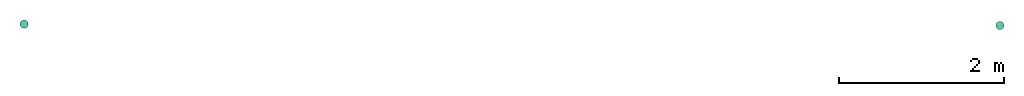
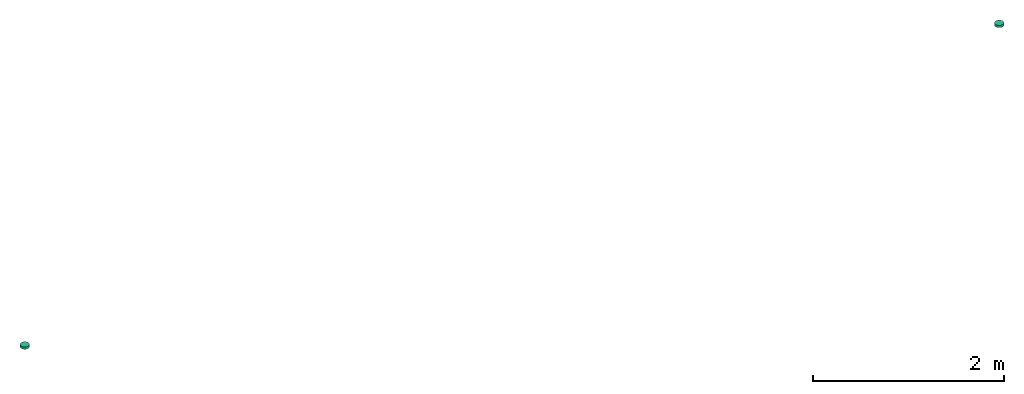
# One storey: 2 distribution control elements.
"""IFC2X3 building model written with IfcOpenShell, lengths in millimetres."""

from ifc_helpers import new_model, entity, si_unit, converted_unit, derived_unit, direction, frame, origin_with_axes, place, context, subcontext, project, spatial, open_shell, surface_model, source, transform, mapped, type_object, element, save


model = new_model("IFC2X3")

# Units and contexts
model_context = context("Model", 3, precision=0.01, world=frame((0.0, 4.29681676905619e-09, 0.0)), true_north=direction((4.01073788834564e-13, 1.0)))
plan_context = context("Plan", 3, precision=0.01, world=frame((0.0, 4.29681676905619e-09, 0.0)), true_north=direction((4.01073788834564e-13, 1.0)))
body_context = subcontext(model_context, "Body", "Model", "MODEL_VIEW")
ifc_project = project(units=[converted_unit("PLANEANGLEUNIT", "DEGREE", entity("IfcPositiveLengthMeasure", 0.0174532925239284), si_unit("PLANEANGLEUNIT", "RADIAN"), dimensions=[0, 0, 0, 0, 0, 0, 0]), si_unit("AREAUNIT", "SQUARE_METRE"), si_unit("LENGTHUNIT", "METRE", prefix="MILLI"), si_unit("MASSUNIT", "GRAM", prefix="KILO"), si_unit("POWERUNIT", "WATT"), si_unit("PRESSUREUNIT", "PASCAL", prefix="KILO"), si_unit("FORCEUNIT", "NEWTON", prefix="KILO"), si_unit("ELECTRICVOLTAGEUNIT", "VOLT"), si_unit("ELECTRICCURRENTUNIT", "AMPERE"), si_unit("THERMODYNAMICTEMPERATUREUNIT", "DEGREE_CELSIUS"), si_unit("TIMEUNIT", "SECOND"), si_unit("VOLUMEUNIT", "CUBIC_METRE"), derived_unit("LINEARVELOCITYUNIT", [(si_unit("LENGTHUNIT", "METRE"), 1), (si_unit("TIMEUNIT", "SECOND"), -1)]), derived_unit("VOLUMETRICFLOWRATEUNIT", [(si_unit("VOLUMEUNIT", "CUBIC_METRE"), 1), (si_unit("TIMEUNIT", "SECOND"), -1)]), derived_unit("THERMALTRANSMITTANCEUNIT", [(si_unit("POWERUNIT", "WATT"), 1), (si_unit("THERMODYNAMICTEMPERATUREUNIT", "KELVIN"), -1), (si_unit("AREAUNIT", "SQUARE_METRE"), -1)]), derived_unit("SOUNDPRESSUREUNIT", [(si_unit("PRESSUREUNIT", "PASCAL"), 1)])], contexts=[model_context, plan_context])

# Site, building, storey
site_placement = place(None, frame((0.0, -4.29681676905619e-09, 0.0), z_axis=(0.0, 0.0, 1.0), x_axis=(1.0, 0.0, 0.0)))
site = spatial("IfcSite", under=ifc_project, at=site_placement, Name="ENGM", CompositionType="ELEMENT")
building_placement = place(site_placement, frame((0.0, 4.29681676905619e-09, 0.0), z_axis=(0.0, 0.0, 1.0), x_axis=(1.0, 0.0, 0.0)))
building = spatial("IfcBuilding", under=site, at=building_placement, Name="TI", CompositionType="ELEMENT")
storey_placement = place(building_placement, frame((0.0, 0.0, 207370.0), z_axis=(0.0, 0.0, 1.0), x_axis=(1.0, 0.0, 0.0)))
storey = spatial("IfcBuildingStorey", under=building, at=storey_placement, Name="Nivå E", CompositionType="ELEMENT", Elevation=207370.0)

# Distribution control elements
alarm_type = type_object("IfcAlarmType", Name="Standard", PredefinedType="NOTDEFINED")
shared_shape = source(origin_with_axes(), body_context, "Body", "SurfaceModel", [
    surface_model("IfcShellBasedSurfaceModel", [(-25.0, 43.30127, -28.9), (-35.35534, 35.35534, -28.9), (-18.0, 31.17691, -28.9), (-25.45584, 25.45584, -28.9), (-9.31749, 34.77333, -28.9), (-12.94095, 48.29629, -28.9), (0.0, 36.0, -28.9), (0.0, 50.0, -28.9), (-34.77333, 9.31749, -28.9), (-43.30127, 25.0, -28.9), (-48.29629, 12.94095, -28.9), (-36.0, 0.0, -28.9), (-50.0, 0.0, -28.9), (-31.17691, 18.0, -28.9), (9.31749, 34.77333, -28.9), (12.94095, 48.29629, -28.9), (18.0, 31.17691, -28.9), (35.35534, 35.35534, -28.9), (25.0, 43.30127, -28.9), (25.45584, 25.45584, -28.9), (31.17691, 18.0, -28.9), (34.77333, 9.31749, -28.9), (43.30127, 25.0, -28.9), (48.29629, 12.94095, -28.9), (36.0, 0.0, -28.9), (50.0, 0.0, -28.9), (-34.77333, -9.31749, -28.9), (-48.29629, -12.94095, -28.9), (-31.17691, -18.0, -28.9), (-43.30127, -25.0, -28.9), (-25.45584, -25.45584, -28.9), (-35.35534, -35.35534, -28.9), (-18.0, -31.17691, -28.9), (-25.0, -43.30127, -28.9), (-9.31749, -34.77333, -28.9), (-12.94095, -48.29629, -28.9), (0.0, -36.0, -28.9), (0.0, -50.0, -28.9), (43.30127, -25.0, -28.9), (31.17691, -18.0, -28.9), (35.35534, -35.35534, -28.9), (34.77333, -9.31749, -28.9), (48.29629, -12.94095, -28.9), (25.45584, -25.45584, -28.9), (9.31749, -34.77333, -28.9), (12.94095, -48.29629, -28.9), (18.0, -31.17691, -28.9), (25.0, -43.30127, -28.9), (-25.0, -43.30127, -29.1), (-35.35534, -35.35534, -29.1), (-18.0, -31.17691, -29.1), (-25.45584, -25.45584, -29.1), (-9.31749, -34.77333, -29.1), (-12.94095, -48.29629, -29.1), (0.0, -36.0, -29.1), (0.0, -50.0, -29.1), (-34.77333, -9.31749, -29.1), (-43.30127, -25.0, -29.1), (-48.29629, -12.94095, -29.1), (-36.0, 0.0, -29.1), (-50.0, 0.0, -29.1), (-31.17691, -18.0, -29.1), (9.31749, -34.77333, -29.1), (12.94095, -48.29629, -29.1), (18.0, -31.17691, -29.1), (35.35534, -35.35534, -29.1), (25.0, -43.30127, -29.1), (25.45584, -25.45584, -29.1), (31.17691, -18.0, -29.1), (34.77333, -9.31749, -29.1), (43.30127, -25.0, -29.1), (48.29629, -12.94095, -29.1), (36.0, 0.0, -29.1), (50.0, 0.0, -29.1), (-34.77333, 9.31749, -29.1), (-48.29629, 12.94095, -29.1), (-31.17691, 18.0, -29.1), (-43.30127, 25.0, -29.1), (-25.45584, 25.45584, -29.1), (-35.35534, 35.35534, -29.1), (-18.0, 31.17691, -29.1), (-25.0, 43.30127, -29.1), (-9.31749, 34.77333, -29.1), (-12.94095, 48.29629, -29.1), (0.0, 36.0, -29.1), (0.0, 50.0, -29.1), (43.30127, 25.0, -29.1), (31.17691, 18.0, -29.1), (35.35534, 35.35534, -29.1), (34.77333, 9.31749, -29.1), (48.29629, 12.94095, -29.1), (25.45584, 25.45584, -29.1), (9.31749, 34.77333, -29.1), (12.94095, 48.29629, -29.1), (18.0, 31.17691, -29.1), (25.0, 43.30127, -29.1), (6.47048, -24.14815, -44.9), (12.5, -21.65064, -44.9), (17.67767, -17.67767, -44.9), (24.14815, -6.47048, -44.9), (-24.14815, -6.47048, -44.9), (21.65064, -12.5, -44.9), (-21.65064, 12.5, -44.9), (0.0, -25.0, -44.9), (-12.5, -21.65064, -44.9), (-6.47048, -24.14815, -44.9), (-17.67767, -17.67767, -44.9), (-21.65064, -12.5, -44.9), (25.0, 0.0, -44.9), (24.14815, 6.47048, -44.9), (21.65064, 12.5, -44.9), (17.67767, 17.67767, -44.9), (12.5, 21.65064, -44.9), (6.47048, 24.14815, -44.9), (0.0, 25.0, -44.9), (-25.0, 0.0, -44.9), (-24.14815, 6.47048, -44.9), (-12.5, 21.65064, -44.9), (-17.67767, 17.67767, -44.9), (-6.47048, 24.14815, -44.9), (0.0, 25.0, -45.1), (6.47048, 24.14815, -45.1), (12.5, 21.65064, -45.1), (-21.65064, 12.5, -45.1), (17.67767, 17.67767, -45.1), (21.65064, 12.5, -45.1), (24.14815, 6.47048, -45.1), (-12.5, 21.65064, -45.1), (-17.67767, 17.67767, -45.1), (-6.47048, 24.14815, -45.1), (-25.0, 0.0, -45.1), (-24.14815, 6.47048, -45.1), (-24.14815, -6.47048, -45.1), (24.14815, -6.47048, -45.1), (6.47048, -24.14815, -45.1), (21.65064, -12.5, -45.1), (17.67767, -17.67767, -45.1), (12.5, -21.65064, -45.1), (-12.5, -21.65064, -45.1), (-17.67767, -17.67767, -45.1), (-21.65064, -12.5, -45.1), (0.0, -25.0, -45.1), (-6.47048, -24.14815, -45.1), (25.0, 0.0, -45.1), (-1.46739, 34.60682, -29.0), (0.0, 34.8, -29.0), (0.0, 35.0, -29.0), (-34.60682, 1.46739, -29.0), (-35.0, 0.0, -29.0), (-34.8, 0.0, -29.0), (-17.5, 30.31089, -29.0), (-18.5742, 29.23669, -29.0), (-17.4, 30.13768, -29.0), (-24.60732, -24.60732, -29.0), (-18.5742, -29.23669, -29.0), (-29.23669, -18.5742, -29.0), (34.8, 0.0, -29.0), (34.60682, -1.46739, -29.0), (35.0, 0.0, -29.0), (17.4, 30.13768, -29.0), (17.5, 30.31089, -29.0), (16.03261, 30.70407, -29.0), (30.13768, 17.4, -29.0), (30.31089, 17.5, -29.0), (29.23669, 18.5742, -29.0), (34.60682, 1.46739, -29.0), (33.61422, -9.0069, -29.0), (30.70407, -16.03261, -29.0), (-33.61422, -9.0069, -29.0), (-30.70407, -16.03261, -29.0), (-34.60682, -1.46739, -29.0), (-30.13768, -17.4, -29.0), (-30.31089, -17.5, -29.0), (-17.5, -30.31089, -29.0), (-17.4, -30.13768, -29.0), (-1.46739, -34.60682, -29.0), (0.0, -35.0, -29.0), (0.0, -34.8, -29.0), (-16.03261, -30.70407, -29.0), (-9.0069, -33.61422, -29.0), (1.46739, -34.60682, -29.0), (30.13768, -17.4, -29.0), (29.23669, -18.5742, -29.0), (30.31089, -17.5, -29.0), (24.60732, -24.60732, -29.0), (18.5742, -29.23669, -29.0), (9.0069, -33.61422, -29.0), (16.03261, -30.70407, -29.0), (-30.13768, 17.4, -29.0), (-30.31089, 17.5, -29.0), (-30.70407, 16.03261, -29.0), (17.4, -30.13768, -29.0), (17.5, -30.31089, -29.0), (-33.61422, 9.0069, -29.0), (-29.23669, 18.5742, -29.0), (-24.60732, 24.60732, -29.0), (-16.03261, 30.70407, -29.0), (-9.0069, 33.61422, -29.0), (1.46739, 34.60682, -29.0), (9.0069, 33.61422, -29.0), (18.5742, 29.23669, -29.0), (24.60732, 24.60732, -29.0), (30.70407, 16.03261, -29.0), (33.61422, 9.0069, -29.0), (23.00389, 18.55381, -38.25), (14.9, 25.80756, -38.25), (21.07178, 21.07178, -38.25), (29.66376, 1.03484, -38.25), (30.0, 0.0, -38.25), (29.8, 0.0, -38.25), (24.27051, 17.63356, -38.25), (24.68215, 16.36666, -38.25), (10.52665, 27.61906, -38.25), (28.78459, 7.71281, -38.25), (-10.52665, 27.61906, -38.25), (-23.00389, 18.55381, -38.25), (-14.9, 25.80756, -38.25), (8.32335, 28.5317, -38.25), (0.0, 29.8, -38.25), (7.71281, 28.78459, -38.25), (-8.32335, 28.5317, -38.25), (-24.68215, 16.36666, -38.25), (-28.78459, 7.71281, -38.25), (-25.80756, 14.9, -38.25), (-9.27051, 28.5317, -38.25), (-29.66376, 1.03484, -38.25), (-29.8, 0.0, -38.25), (-30.0, 0.0, -38.25), (-28.78459, -7.71281, -38.25), (-24.68215, -16.36666, -38.25), (-25.80756, -14.9, -38.25), (29.66376, -1.03484, -38.25), (-7.71281, 28.78459, -38.25), (25.80756, 14.9, -38.25), (14.9, -25.80756, -38.25), (10.52665, -27.61906, -38.25), (23.00389, -18.55381, -38.25), (28.78459, -7.71281, -38.25), (24.68215, -16.36666, -38.25), (0.0, -29.8, -38.25), (-7.71281, -28.78459, -38.25), (-8.32335, -28.5317, -38.25), (8.32335, -28.5317, -38.25), (9.27051, 28.5317, -38.25), (-29.66376, -1.03484, -38.25), (21.07178, -21.07178, -38.25), (-23.00389, -18.55381, -38.25), (-24.27051, -17.63356, -38.25), (-9.27051, -28.5317, -38.25), (-10.52665, -27.61906, -38.25), (-21.07178, -21.07178, -38.25), (-14.9, -25.80756, -38.25), (9.27051, -28.5317, -38.25), (7.71281, -28.78459, -38.25), (24.27051, -17.63356, -38.25), (25.80756, -14.9, -38.25), (-21.07178, 21.07178, -38.25), (-24.27051, 17.63356, -38.25), (33.28589, -6.39713, -29.0), (27.13526, -8.81678, -38.25), (-16.77051, -23.08263, -38.25), (-23.90544, -23.90544, -29.0), (-27.13526, -8.81678, -38.25), (-33.28589, -6.39713, -29.0), (16.77051, -23.08263, -38.25), (8.75, -32.65544, -29.0), (0.0, -28.5317, -38.25), (23.90544, -23.90544, -29.0), (-8.75, -32.65544, -29.0), (-33.28589, 6.39713, -29.0), (-27.13526, 8.81678, -38.25), (16.77051, 23.08263, -38.25), (23.90544, 23.90544, -29.0), (27.13526, 8.81678, -38.25), (33.28589, 6.39713, -29.0), (-16.77051, 23.08263, -38.25), (-8.75, 32.65544, -29.0), (0.0, 28.5317, -38.25), (-23.90544, 23.90544, -29.0), (8.75, 32.65544, -29.0), (12.4, 21.47743, -45.0), (17.53625, 17.53625, -45.0), (19.07577, 15.5299, -45.0), (20.22543, 14.69463, -45.0), (20.59905, 13.54472, -45.0), (24.66376, 1.03484, -45.0), (25.0, 0.0, -45.0), (24.8, 0.0, -45.0), (8.88673, 22.93267, -45.0), (23.95496, 6.41871, -45.0), (-8.88673, 22.93267, -45.0), (-19.07577, 15.5299, -45.0), (-12.4, 21.47743, -45.0), (6.84976, 23.77641, -45.0), (0.0, 24.8, -45.0), (6.41871, 23.95496, -45.0), (-7.72542, 23.77641, -45.0), (-6.84976, 23.77641, -45.0), (-21.47743, 12.4, -45.0), (-20.59905, 13.54472, -45.0), (-23.95496, 6.41871, -45.0), (-25.0, 0.0, -45.0), (-24.66376, 1.03484, -45.0), (-24.8, 0.0, -45.0), (-23.95496, -6.41871, -45.0), (-20.59905, -13.54472, -45.0), (-21.47743, -12.4, -45.0), (-6.41871, 23.95496, -45.0), (24.66376, -1.03484, -45.0), (21.47743, 12.4, -45.0), (12.4, -21.47743, -45.0), (8.88673, -22.93267, -45.0), (19.07577, -15.5299, -45.0), (23.95496, -6.41871, -45.0), (20.59905, -13.54472, -45.0), (0.0, -24.8, -45.0), (-6.41871, -23.95496, -45.0), (-6.84976, -23.77641, -45.0), (7.72542, -23.77641, -45.0), (6.84976, -23.77641, -45.0), (7.72542, 23.77641, -45.0), (-24.66376, -1.03484, -45.0), (17.53625, -17.53625, -45.0), (-20.22543, -14.69463, -45.0), (-19.07577, -15.5299, -45.0), (-8.88673, -22.93267, -45.0), (-7.72542, -23.77641, -45.0), (-17.53625, -17.53625, -45.0), (-12.4, -21.47743, -45.0), (6.41871, -23.95496, -45.0), (20.22543, -14.69463, -45.0), (21.47743, -12.4, -45.0), (-17.53625, 17.53625, -45.0), (-20.22543, 14.69463, -45.0), (-22.61271, -7.34732, -45.0), (-13.97542, -19.23552, -45.0), (0.0, -23.77641, -45.0), (21.83768, -9.73262, -45.0), (13.97542, -19.23552, -45.0), (23.41884, -4.86631, -45.0), (22.61271, 7.34732, -45.0), (13.97542, 19.23552, -45.0), (0.0, 23.77641, -45.0), (-21.83768, 9.73262, -45.0), (-13.97542, 19.23552, -45.0), (-23.41884, 4.86631, -45.0), (12.94095, -48.29629, 0.0), (25.0, -43.30127, 0.0), (35.35534, -35.35534, 0.0), (48.29629, -12.94095, 0.0), (-48.29629, -12.94095, 0.0), (43.30127, -25.0, 0.0), (-43.30127, 25.0, 0.0), (0.0, -50.0, 0.0), (-25.0, -43.30127, 0.0), (-12.94095, -48.29629, 0.0), (-35.35534, -35.35534, 0.0), (-43.30127, -25.0, 0.0), (50.0, 0.0, 0.0), (48.29629, 12.94095, 0.0), (43.30127, 25.0, 0.0), (35.35534, 35.35534, 0.0), (25.0, 43.30127, 0.0), (12.94095, 48.29629, 0.0), (0.0, 50.0, 0.0), (-50.0, 0.0, 0.0), (-48.29629, 12.94095, 0.0), (-25.0, 43.30127, 0.0), (-35.35534, 35.35534, 0.0), (-12.94095, 48.29629, 0.0), (0.0, 50.0, -29.0), (12.94095, 48.29629, -29.0), (25.0, 43.30127, -29.0), (-43.30127, 25.0, -29.0), (35.35534, 35.35534, -29.0), (43.30127, 25.0, -29.0), (48.29629, 12.94095, -29.0), (-25.0, 43.30127, -29.0), (-35.35534, 35.35534, -29.0), (-12.94095, 48.29629, -29.0), (-50.0, 0.0, -29.0), (-48.29629, 12.94095, -29.0), (-48.29629, -12.94095, -29.0), (48.29629, -12.94095, -29.0), (12.94095, -48.29629, -29.0), (43.30127, -25.0, -29.0), (35.35534, -35.35534, -29.0), (25.0, -43.30127, -29.0), (-25.0, -43.30127, -29.0), (-35.35534, -35.35534, -29.0), (-43.30127, -25.0, -29.0), (0.0, -50.0, -29.0), (-12.94095, -48.29629, -29.0), (50.0, 0.0, -29.0)], [open_shell([[[0, 1, 2]], [[2, 1, 3]], [[0, 2, 4]], [[5, 4, 6]], [[4, 5, 0]], [[5, 6, 7]], [[8, 9, 10]], [[11, 10, 12]], [[8, 10, 11]], [[13, 3, 9]], [[8, 13, 9]], [[9, 3, 1]], [[7, 14, 15]], [[14, 7, 6]], [[15, 14, 16]], [[17, 18, 19]], [[16, 18, 15]], [[19, 18, 16]], [[20, 21, 22]], [[20, 22, 17]], [[21, 23, 22]], [[23, 21, 24]], [[23, 24, 25]], [[20, 17, 19]], [[26, 12, 27]], [[28, 27, 29]], [[28, 26, 27]], [[30, 28, 29]], [[29, 31, 30]], [[32, 31, 33]], [[31, 32, 30]], [[32, 33, 34]], [[34, 35, 36]], [[35, 34, 33]], [[36, 35, 37]], [[38, 39, 40]], [[41, 39, 42]], [[41, 42, 25]], [[42, 39, 38]], [[39, 43, 40]], [[25, 24, 41]], [[44, 37, 45]], [[37, 44, 36]], [[44, 45, 46]], [[47, 40, 43]], [[47, 46, 45]], [[47, 43, 46]], [[26, 11, 12]], [[48, 49, 50]], [[50, 49, 51]], [[48, 50, 52]], [[53, 52, 54]], [[52, 53, 48]], [[53, 54, 55]], [[56, 57, 58]], [[59, 58, 60]], [[56, 58, 59]], [[61, 51, 57]], [[56, 61, 57]], [[57, 51, 49]], [[55, 62, 63]], [[62, 55, 54]], [[63, 62, 64]], [[65, 66, 67]], [[64, 66, 63]], [[67, 66, 64]], [[68, 69, 70]], [[68, 70, 65]], [[69, 71, 70]], [[71, 69, 72]], [[71, 72, 73]], [[68, 65, 67]], [[74, 60, 75]], [[76, 75, 77]], [[76, 74, 75]], [[78, 76, 77]], [[77, 79, 78]], [[80, 79, 81]], [[79, 80, 78]], [[80, 81, 82]], [[82, 83, 84]], [[83, 82, 81]], [[84, 83, 85]], [[86, 87, 88]], [[89, 87, 90]], [[89, 90, 73]], [[90, 87, 86]], [[87, 91, 88]], [[73, 72, 89]], [[92, 85, 93]], [[85, 92, 84]], [[92, 93, 94]], [[95, 88, 91]], [[95, 94, 93]], [[95, 91, 94]], [[74, 59, 60]], [[11, 59, 8]], [[8, 74, 13]], [[2, 3, 78]], [[76, 3, 13]], [[4, 2, 80]], [[74, 76, 13]], [[8, 59, 74]], [[84, 6, 82]], [[4, 80, 82]], [[80, 2, 78]], [[3, 76, 78]], [[4, 82, 6]], [[14, 92, 16]], [[16, 94, 19]], [[21, 20, 87]], [[91, 20, 19]], [[24, 21, 89]], [[92, 94, 16]], [[14, 84, 92]], [[21, 87, 89]], [[87, 20, 91]], [[19, 94, 91]], [[24, 89, 72]], [[6, 84, 14]], [[24, 72, 41]], [[41, 69, 39]], [[46, 43, 67]], [[68, 43, 39]], [[44, 46, 64]], [[69, 68, 39]], [[41, 72, 69]], [[54, 36, 62]], [[44, 64, 62]], [[64, 46, 67]], [[43, 68, 67]], [[44, 62, 36]], [[34, 52, 32]], [[32, 50, 30]], [[26, 28, 61]], [[51, 28, 30]], [[11, 26, 56]], [[52, 50, 32]], [[34, 54, 52]], [[26, 61, 56]], [[61, 28, 51]], [[30, 50, 51]], [[11, 56, 59]], [[36, 54, 34]], [[58, 27, 60]], [[57, 29, 58]], [[33, 49, 48]], [[57, 49, 31]], [[35, 48, 53]], [[58, 29, 27]], [[27, 12, 60]], [[35, 33, 48]], [[31, 49, 33]], [[31, 29, 57]], [[37, 35, 53]], [[53, 55, 37]], [[63, 45, 55]], [[66, 47, 63]], [[38, 65, 70]], [[66, 65, 40]], [[42, 70, 71]], [[66, 40, 47]], [[47, 45, 63]], [[25, 42, 71]], [[38, 70, 42]], [[38, 40, 65]], [[73, 25, 71]], [[55, 45, 37]], [[90, 23, 73]], [[86, 22, 90]], [[18, 88, 95]], [[86, 88, 17]], [[15, 95, 93]], [[90, 22, 23]], [[23, 25, 73]], [[15, 18, 95]], [[17, 88, 18]], [[17, 22, 86]], [[7, 15, 93]], [[93, 85, 7]], [[83, 5, 85]], [[81, 0, 83]], [[9, 79, 77]], [[81, 79, 1]], [[10, 77, 75]], [[81, 1, 0]], [[0, 5, 83]], [[12, 10, 75]], [[9, 77, 10]], [[9, 1, 79]], [[60, 12, 75]], [[85, 5, 7]], [[96, 97, 98]], [[96, 98, 99]], [[96, 99, 100]], [[99, 98, 101]], [[102, 100, 99]], [[103, 104, 105]], [[103, 96, 104]], [[106, 100, 107]], [[106, 104, 96]], [[100, 106, 96]], [[99, 108, 102]], [[109, 110, 111]], [[109, 111, 112]], [[112, 113, 114]], [[109, 112, 102]], [[102, 112, 114]], [[115, 102, 116]], [[100, 102, 115]], [[102, 117, 118]], [[117, 102, 119]], [[114, 119, 102]], [[102, 108, 109]], [[120, 121, 122]], [[123, 120, 122]], [[124, 125, 126]], [[124, 126, 122]], [[123, 122, 126]], [[127, 123, 128]], [[123, 127, 129]], [[123, 130, 131]], [[123, 129, 120]], [[123, 132, 130]], [[123, 126, 133]], [[132, 123, 133]], [[134, 133, 135]], [[136, 137, 134]], [[136, 134, 135]], [[138, 133, 134]], [[132, 139, 140]], [[132, 133, 139]], [[138, 141, 142]], [[139, 133, 138]], [[134, 141, 138]], [[133, 126, 143]], [[132, 100, 130]], [[140, 107, 132]], [[104, 139, 138]], [[140, 139, 106]], [[105, 138, 142]], [[132, 107, 100]], [[100, 115, 130]], [[105, 104, 138]], [[106, 139, 104]], [[106, 107, 140]], [[103, 105, 142]], [[142, 141, 103]], [[134, 96, 141]], [[137, 97, 134]], [[101, 136, 135]], [[137, 136, 98]], [[99, 135, 133]], [[137, 98, 97]], [[97, 96, 134]], [[108, 99, 133]], [[101, 135, 99]], [[101, 98, 136]], [[143, 108, 133]], [[141, 96, 103]], [[126, 109, 143]], [[125, 110, 126]], [[112, 124, 122]], [[125, 124, 111]], [[113, 122, 121]], [[126, 110, 109]], [[109, 108, 143]], [[113, 112, 122]], [[111, 124, 112]], [[111, 110, 125]], [[114, 113, 121]], [[121, 120, 114]], [[129, 119, 120]], [[127, 117, 129]], [[102, 128, 123]], [[127, 128, 118]], [[116, 123, 131]], [[127, 118, 117]], [[117, 119, 129]], [[115, 116, 131]], [[102, 123, 116]], [[102, 118, 128]], [[130, 115, 131]], [[120, 119, 114]], [[144, 145, 146]], [[147, 148, 149]], [[150, 151, 152]], [[153, 154, 155]], [[156, 157, 158]], [[159, 160, 161]], [[162, 163, 164]], [[156, 158, 165]], [[166, 157, 167]], [[168, 169, 170]], [[170, 149, 148]], [[171, 169, 172]], [[173, 174, 154]], [[175, 176, 177]], [[174, 173, 178]], [[155, 171, 172]], [[179, 175, 178]], [[180, 177, 176]], [[181, 182, 183]], [[181, 183, 167]], [[184, 182, 185]], [[186, 187, 180]], [[188, 189, 190]], [[191, 192, 185]], [[191, 187, 192]], [[193, 147, 190]], [[188, 194, 189]], [[195, 194, 151]], [[152, 196, 150]], [[197, 196, 144]], [[145, 198, 146]], [[199, 198, 161]], [[159, 200, 160]], [[201, 200, 164]], [[162, 202, 163]], [[203, 202, 165]], [[204, 205, 206]], [[207, 208, 209]], [[204, 210, 211]], [[205, 204, 212]], [[213, 207, 211]], [[214, 215, 216]], [[217, 218, 219]], [[218, 217, 220]], [[221, 222, 223]], [[220, 214, 224]], [[225, 226, 227]], [[228, 229, 230]], [[209, 208, 231]], [[218, 220, 232]], [[213, 211, 233]], [[234, 235, 236]], [[237, 238, 231]], [[239, 240, 241]], [[241, 242, 239]], [[243, 212, 217]], [[227, 226, 244]], [[234, 236, 245]], [[229, 246, 247]], [[241, 248, 249]], [[250, 246, 251]], [[228, 244, 229]], [[235, 252, 242]], [[239, 242, 253]], [[236, 238, 254]], [[238, 237, 255]], [[251, 246, 249]], [[216, 215, 256]], [[215, 221, 257]], [[222, 221, 225]], [[208, 158, 258]], [[183, 259, 258]], [[260, 261, 247]], [[172, 262, 247]], [[263, 227, 262]], [[192, 252, 264]], [[260, 248, 173]], [[261, 260, 173]], [[252, 265, 266]], [[227, 263, 148]], [[172, 263, 262]], [[258, 259, 208]], [[254, 267, 264]], [[268, 173, 248]], [[252, 192, 265]], [[192, 264, 267]], [[267, 254, 183]], [[259, 183, 254]], [[268, 266, 176]], [[265, 176, 266]], [[248, 266, 268]], [[172, 247, 261]], [[227, 148, 269]], [[189, 270, 269]], [[271, 272, 210]], [[163, 273, 210]], [[274, 208, 273]], [[150, 224, 275]], [[271, 243, 160]], [[272, 271, 160]], [[224, 276, 277]], [[208, 274, 158]], [[163, 274, 273]], [[269, 270, 227]], [[257, 278, 275]], [[279, 160, 243]], [[224, 150, 276]], [[150, 275, 278]], [[278, 257, 189]], [[270, 189, 257]], [[279, 277, 146]], [[276, 146, 277]], [[243, 277, 279]], [[163, 210, 272]], [[171, 230, 228]], [[168, 228, 226]], [[179, 240, 251]], [[174, 251, 250]], [[153, 250, 230]], [[168, 171, 228]], [[226, 149, 168]], [[251, 174, 179]], [[174, 250, 153]], [[230, 171, 153]], [[240, 179, 177]], [[177, 239, 240]], [[184, 245, 234]], [[191, 234, 253]], [[156, 209, 237]], [[166, 237, 255]], [[181, 255, 245]], [[239, 186, 253]], [[186, 191, 253]], [[177, 186, 239]], [[184, 181, 245]], [[191, 184, 234]], [[181, 166, 255]], [[166, 156, 237]], [[162, 233, 213]], [[203, 213, 209]], [[199, 219, 205]], [[159, 205, 206]], [[201, 206, 233]], [[203, 162, 213]], [[209, 156, 203]], [[205, 159, 199]], [[159, 206, 201]], [[233, 162, 201]], [[219, 199, 145]], [[145, 218, 219]], [[195, 256, 216]], [[152, 216, 232]], [[149, 226, 222]], [[193, 222, 223]], [[188, 223, 256]], [[218, 197, 232]], [[197, 152, 232]], [[145, 197, 218]], [[195, 188, 256]], [[152, 195, 216]], [[188, 193, 223]], [[193, 149, 222]], [[215, 216, 256]], [[221, 222, 225]], [[225, 227, 226]], [[257, 221, 215]], [[216, 215, 214]], [[212, 204, 205]], [[220, 218, 232]], [[218, 220, 217]], [[217, 212, 243]], [[233, 211, 213]], [[208, 207, 209]], [[237, 238, 255]], [[252, 235, 242]], [[218, 217, 219]], [[227, 244, 226]], [[222, 221, 223]], [[228, 229, 244]], [[239, 253, 242]], [[246, 251, 249]], [[249, 248, 241]], [[231, 238, 237]], [[208, 209, 231]], [[251, 246, 250]], [[254, 238, 236]], [[236, 234, 245]], [[214, 220, 224]], [[242, 241, 239]], [[239, 241, 240]], [[246, 229, 247]], [[230, 229, 228]], [[234, 236, 235]], [[205, 204, 206]], [[204, 211, 210]], [[213, 211, 207]], [[280, 281, 282]], [[282, 283, 284]], [[285, 286, 287]], [[280, 282, 288]], [[289, 285, 284]], [[290, 291, 292]], [[293, 294, 295]], [[290, 296, 297]], [[294, 293, 297]], [[298, 299, 300]], [[301, 302, 303]], [[304, 305, 306]], [[294, 297, 307]], [[308, 287, 286]], [[289, 284, 309]], [[310, 311, 312]], [[313, 314, 308]], [[315, 316, 317]], [[311, 318, 319]], [[293, 320, 288]], [[301, 303, 321]], [[310, 312, 322]], [[323, 305, 324]], [[325, 317, 326]], [[327, 324, 328]], [[304, 321, 305]], [[317, 319, 315]], [[315, 319, 329]], [[312, 314, 330]], [[331, 314, 313]], [[328, 324, 325]], [[292, 291, 332]], [[291, 299, 333]], [[300, 299, 302]], [[262, 301, 334]], [[334, 323, 247]], [[248, 335, 326]], [[301, 262, 227]], [[334, 247, 262]], [[260, 323, 335]], [[266, 248, 326]], [[336, 252, 266]], [[252, 336, 318]], [[323, 260, 247]], [[248, 260, 335]], [[254, 337, 259]], [[318, 264, 252]], [[338, 254, 264]], [[339, 286, 208]], [[264, 318, 338]], [[259, 339, 208]], [[338, 330, 254]], [[266, 326, 336]], [[259, 337, 339]], [[337, 254, 330]], [[273, 286, 340]], [[340, 283, 210]], [[243, 341, 320]], [[286, 273, 208]], [[340, 210, 273]], [[271, 283, 341]], [[277, 243, 320]], [[342, 224, 277]], [[224, 342, 296]], [[283, 271, 210]], [[243, 271, 341]], [[257, 343, 270]], [[296, 275, 224]], [[344, 257, 275]], [[345, 301, 227]], [[275, 296, 344]], [[270, 345, 227]], [[344, 333, 257]], [[277, 320, 342]], [[270, 343, 345]], [[343, 257, 333]], [[230, 306, 304]], [[228, 304, 303]], [[240, 316, 328]], [[251, 328, 327]], [[250, 327, 306]], [[228, 230, 304]], [[303, 226, 228]], [[328, 251, 240]], [[251, 327, 250]], [[306, 230, 250]], [[316, 240, 239]], [[239, 315, 316]], [[245, 322, 310]], [[234, 310, 329]], [[209, 287, 313]], [[237, 313, 331]], [[255, 331, 322]], [[315, 253, 329]], [[253, 234, 329]], [[239, 253, 315]], [[255, 322, 245]], [[234, 245, 310]], [[331, 255, 237]], [[237, 209, 313]], [[233, 309, 289]], [[213, 289, 287]], [[219, 295, 280]], [[205, 280, 281]], [[206, 281, 309]], [[213, 233, 289]], [[287, 209, 213]], [[280, 205, 219]], [[205, 281, 206]], [[309, 233, 206]], [[295, 219, 218]], [[218, 294, 295]], [[256, 332, 292]], [[216, 292, 307]], [[226, 303, 300]], [[222, 300, 298]], [[223, 298, 332]], [[294, 232, 307]], [[232, 216, 307]], [[218, 232, 294]], [[223, 332, 256]], [[216, 256, 292]], [[298, 223, 222]], [[222, 226, 300]], [[346, 347, 348]], [[346, 348, 349]], [[346, 349, 350]], [[349, 348, 351]], [[352, 350, 349]], [[353, 354, 355]], [[353, 346, 354]], [[356, 350, 357]], [[356, 354, 346]], [[350, 356, 346]], [[349, 358, 352]], [[359, 360, 361]], [[359, 361, 362]], [[362, 363, 364]], [[359, 362, 352]], [[352, 362, 364]], [[365, 352, 366]], [[350, 352, 365]], [[352, 367, 368]], [[367, 352, 369]], [[364, 369, 352]], [[352, 358, 359]], [[370, 371, 372]], [[373, 370, 372]], [[374, 375, 376]], [[374, 376, 372]], [[373, 372, 376]], [[377, 373, 378]], [[373, 377, 379]], [[373, 380, 381]], [[373, 379, 370]], [[373, 382, 380]], [[373, 376, 383]], [[382, 373, 383]], [[384, 383, 385]], [[386, 387, 384]], [[386, 384, 385]], [[388, 383, 384]], [[382, 389, 390]], [[382, 383, 389]], [[388, 391, 392]], [[389, 383, 388]], [[384, 391, 388]], [[383, 376, 393]], [[382, 350, 380]], [[390, 357, 382]], [[354, 389, 388]], [[390, 389, 356]], [[355, 388, 392]], [[382, 357, 350]], [[350, 365, 380]], [[355, 354, 388]], [[356, 389, 354]], [[356, 357, 390]], [[353, 355, 392]], [[392, 391, 353]], [[384, 346, 391]], [[387, 347, 384]], [[351, 386, 385]], [[387, 386, 348]], [[349, 385, 383]], [[387, 348, 347]], [[347, 346, 384]], [[358, 349, 383]], [[351, 385, 349]], [[351, 348, 386]], [[393, 358, 383]], [[391, 346, 353]], [[376, 359, 393]], [[375, 360, 376]], [[362, 374, 372]], [[375, 374, 361]], [[363, 372, 371]], [[376, 360, 359]], [[359, 358, 393]], [[363, 362, 372]], [[361, 374, 362]], [[361, 360, 375]], [[364, 363, 371]], [[371, 370, 364]], [[369, 370, 379]], [[367, 379, 377]], [[352, 373, 381]], [[366, 381, 380]], [[379, 367, 369]], [[367, 377, 378]], [[367, 378, 368]], [[368, 378, 352]], [[352, 378, 373]], [[352, 381, 366]], [[380, 365, 366]], [[370, 369, 364]]])]),
])
for number, where, z_axis, x_axis, name in (
    (1, (589095.33275, 573375.03213, 2560.0), (0.0, 0.0, 1.0), (1.0, 0.0, 0.0), "Standard"),
    (2, (600891.74441, 573357.73189, 2560.0), (0.0, 0.0, 1.0), (1.0, 0.0, 0.0), "Standard"),
):
    element("IfcDistributionControlElement", number, at=place(storey_placement, frame(where, z_axis=z_axis, x_axis=x_axis)), inside=storey, type_object=alarm_type, Name=name, context=body_context, shape_type="MappedRepresentation", body=[
        mapped(shared_shape, transform((0.0, 0.0, 0.0), scale=1.0)),
    ])

save(model, "model.ifc")
